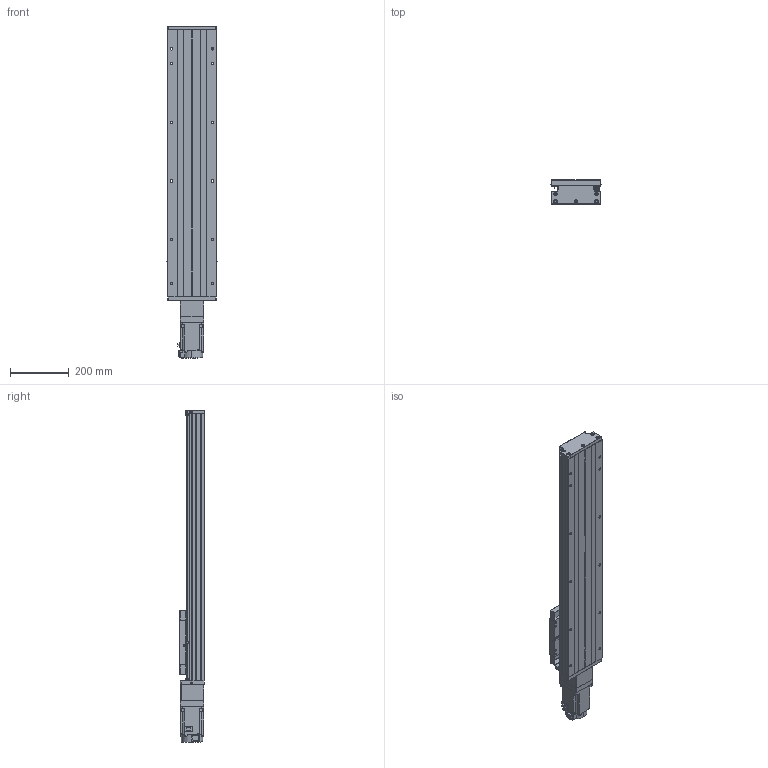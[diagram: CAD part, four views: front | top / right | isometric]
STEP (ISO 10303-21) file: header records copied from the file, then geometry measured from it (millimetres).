
FILE_DESCRIPTION (( 'STEP AP203' ), '1' );
FILE_NAME ('GTH17-650-BC-M75-C4.step', '2023-06-30T11:22:33', ( '微软用户' ), ( '微软中国' ), 'SwSTEP 2.0', 'SolidWorks 2020', '' );
FILE_SCHEMA (( 'CONFIG_CONTROL_DESIGN' ));
Length unit declared in the file: millimetre
Products named in the file (20): EE_SX911P_R; す晦芛蹟隊 M3℅5; GTH17-001_650; CTHA60-016; GBT 70.3-M3℅8; GTH17-002_GTH17-002; GBT 70.1-M3℅5; GTH17-006-2_M75; GTH17-004; GBT77-2000 M3×3; GTH17-013; GTH17-005; GBT 70.1-M6¡Á20_M6¡Á20; GTH17-027-1; GB1155-6X6; GTH17-031; HG-KN73J-S100; CTHA60-017; GBT 70.2-M3¡Á5_M3¡Á6; GTH17-650-BC-M75-C4
Assembly tree (57 placements, depth 2):
  GTH17-650-BC-M75-C4
    GTH17-001_650
    GTH17-002_GTH17-002
    GTH17-004
    GTH17-005
    GB1155-6X6  x2
    CTHA60-017  x3
    EE_SX911P_R  x3
    CTHA60-016  x2
    GBT 70.1-M3℅5  x6
    GBT77-2000 M3×3  x6
    GBT 70.1-M6¡Á20_M6¡Á20  x10
    GTH17-031
    GBT 70.2-M3¡Á5_M3¡Á6  x8
    す晦芛蹟隊 M3℅5  x6
    GBT 70.3-M3℅8  x2
    GTH17-006-2_M75
    GTH17-013
    GTH17-027-1
    HG-KN73J-S100
Bounding box: 171 x 87 x 1131.2 mm (x, y, z)
Volume: 8543687.6 mm3; surface area: 1120310.1 mm2
Topology: 60 solids, 60 shells, 2414 faces, 5773 edges, 3579 vertices
Faces by surface type: plane 1305, cylinder 662, cone 287, torus 120, sphere 20, bspline 20
Entity records: 45145 total; most frequent: CARTESIAN_POINT 10427, DIRECTION 6537, ORIENTED_EDGE 6462, EDGE_CURVE 3231, AXIS2_PLACEMENT_3D 2223, LINE 2091, VECTOR 2091, VERTEX_POINT 2047
